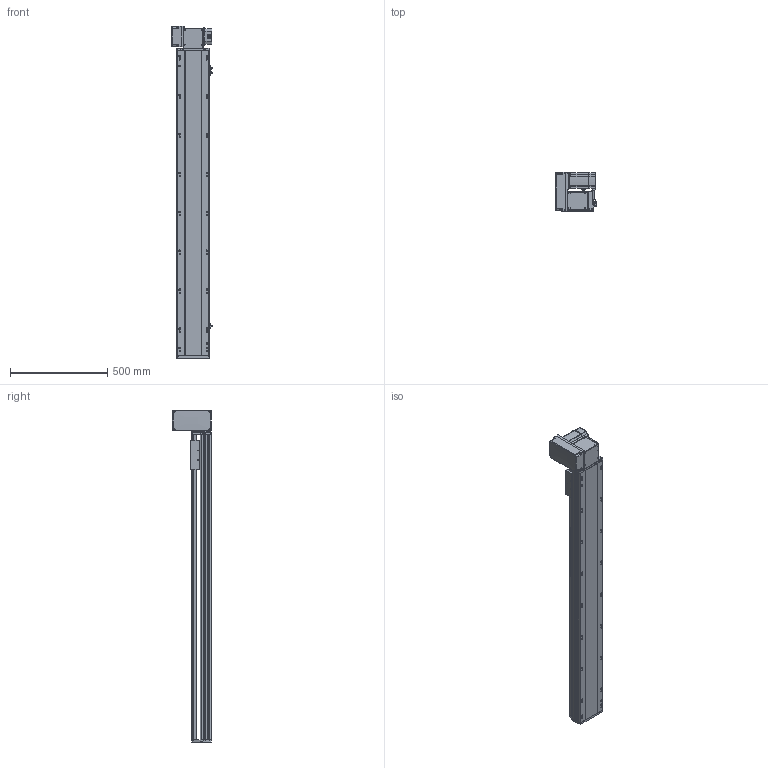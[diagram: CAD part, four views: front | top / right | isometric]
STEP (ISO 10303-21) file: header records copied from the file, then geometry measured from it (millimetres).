
FILE_DESCRIPTION (( 'STEP AP214' ), '1' );
FILE_NAME ('RTB17S-XX-1300-LW-M75-C4.STEP', '2025-12-12T01:06:05', ( '' ), ( '' ), 'SwSTEP 2.0', 'SolidWorks 2018', '' );
FILE_SCHEMA (( 'AUTOMOTIVE_DESIGN' ));
Length unit declared in the file: millimetre
Products named in the file (15): RTB17S-賑釱^RTB17S-XX-XX-LW-M75-C4; RTB22S-GY-018P^RTB17S-LW-々湍釱蚾饜-750W_RTB17S-XX-XX-LW-M75-C4; EE672^RTB17S-XX-XX-LW-M75-C4; RTB22S-GY-008-M75--萇儂啣^RTB17S-LW-々湍釱蚾饜-750W_RTB17S-XX-XX-LW-M75-C4; RTB22S-GY-017P^RTB17S-LW-々湍釱蚾饜-750W_RTB17S-XX-XX-LW-M75-C4; RTB17S-L-014-T20-P75--々湍釱^RTB17S-LW-々湍釱蚾饜-750W_RTB17S-XX-XX-LW-M75-C4; RTB17S-L-001-耜醱啣^RTB17S-XX-XX-LW-M75-C4; 750W萇儂^RTB17S-XX-XX-LW-M75-C4; RTB22S-GY-005P^RTB17S-LW-々湍釱蚾饜-750W_RTB17S-XX-XX-LW-M75-C4; RTB17S-L-007奻裔^RTB17S-XX-XX-LW-M75-C4; RTH13-BL-012覜茼え俋离^RTB17S-賑釱_RTB17S-XX-XX-LW-M75-C4; RTB17S-L-004-賑釱^RTB17S-賑釱_RTB17S-XX-XX-LW-M75-C4; RTB17S-XX-1300-LW-M75-C4; RTB17-R-011菁釱^RTB17S-XX-XX-LW-M75-C4; RTB17S-LW-々湍釱蚾饜-750W^RTB17S-XX-XX-LW-M75-C4
Assembly tree (17 placements, depth 3):
  RTB17S-XX-1300-LW-M75-C4
    RTB17-R-011菁釱^RTB17S-XX-XX-LW-M75-C4
    EE672^RTB17S-XX-XX-LW-M75-C4  x3
    RTB17S-L-001-耜醱啣^RTB17S-XX-XX-LW-M75-C4
    RTB17S-賑釱^RTB17S-XX-XX-LW-M75-C4
      RTB17S-L-004-賑釱^RTB17S-賑釱_RTB17S-XX-XX-LW-M75-C4
      RTH13-BL-012覜茼え俋离^RTB17S-賑釱_RTB17S-XX-XX-LW-M75-C4
    RTB17S-L-007奻裔^RTB17S-XX-XX-LW-M75-C4
    750W萇儂^RTB17S-XX-XX-LW-M75-C4
    RTB17S-LW-々湍釱蚾饜-750W^RTB17S-XX-XX-LW-M75-C4
      RTB17S-L-014-T20-P75--々湍釱^RTB17S-LW-々湍釱蚾饜-750W_RTB17S-XX-XX-LW-M75-C4
      RTB22S-GY-005P^RTB17S-LW-々湍釱蚾饜-750W_RTB17S-XX-XX-LW-M75-C4
      RTB22S-GY-017P^RTB17S-LW-々湍釱蚾饜-750W_RTB17S-XX-XX-LW-M75-C4  x2
      RTB22S-GY-008-M75--萇儂啣^RTB17S-LW-々湍釱蚾饜-750W_RTB17S-XX-XX-LW-M75-C4
      RTB22S-GY-018P^RTB17S-LW-々湍釱蚾饜-750W_RTB17S-XX-XX-LW-M75-C4
Bounding box: 210.4 x 201.5 x 1707.5 mm (x, y, z)
Volume: 14073865.6 mm3; surface area: 2440317.1 mm2
Topology: 17 solids, 17 shells, 2121 faces, 5890 edges, 3806 vertices
Faces by surface type: plane 974, cylinder 731, bspline 294, cone 110, sphere 8, torus 4
Entity records: 59638 total; most frequent: CARTESIAN_POINT 17554, ORIENTED_EDGE 8624, DIRECTION 8042, EDGE_CURVE 4312, AXIS2_PLACEMENT_3D 2826, VERTEX_POINT 2810, LINE 2390, VECTOR 2390
